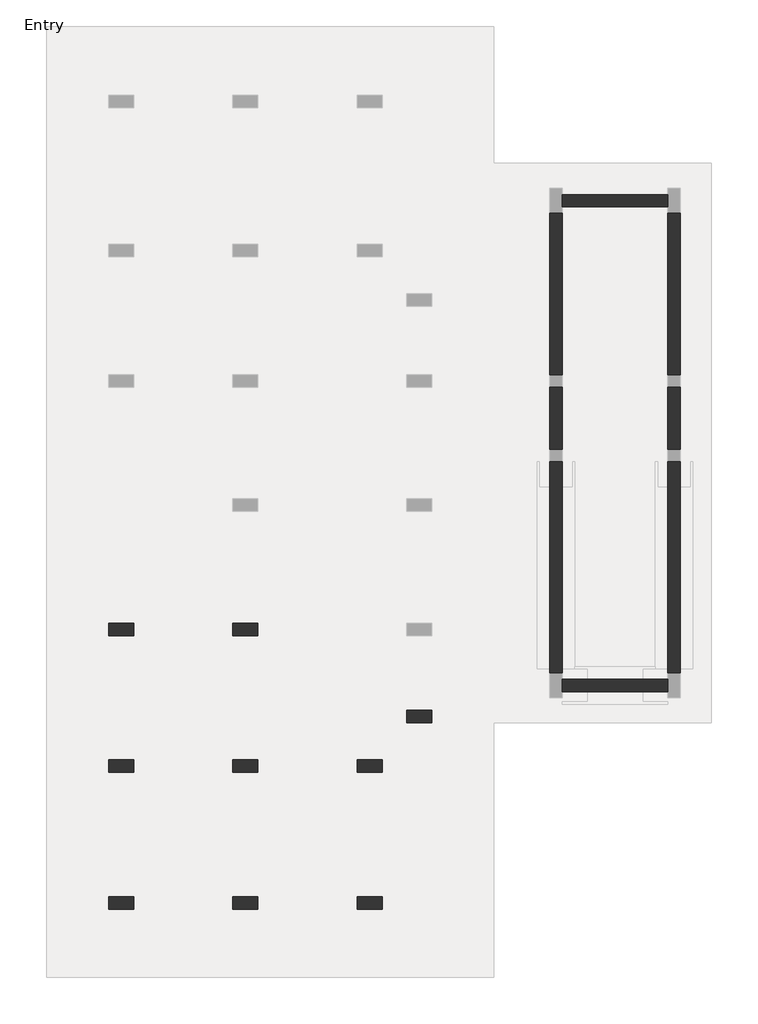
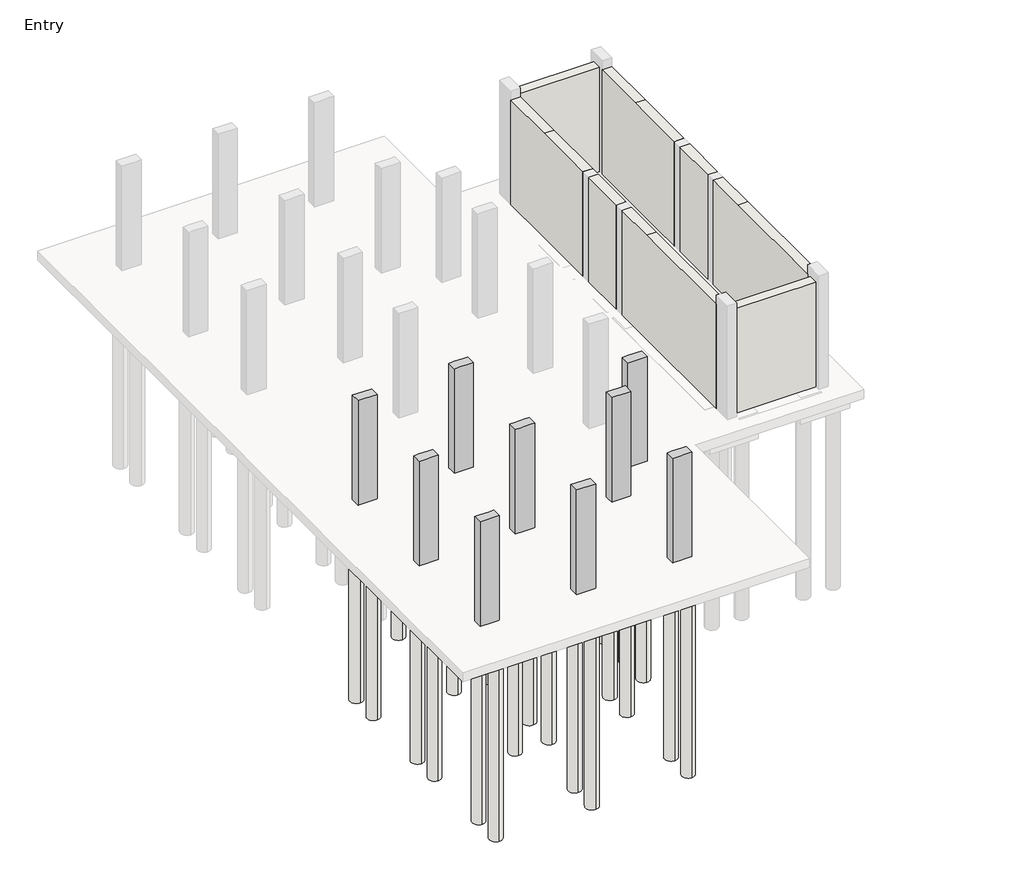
# One storey, part 1 of 3: 34 slabs, 9 columns, 8 walls.
"""IFC4 building model written with IfcOpenShell, lengths in millimetres."""

from ifc_helpers import new_model, si_unit, point, frame, frame_2d, origin, origin_with_axes, place, context, project, spatial, polyline, circle_curve, trimmed, segment, composite_curve, outline, extrude, faceted_brep, element, save

model = new_model("IFC4")

# Units and contexts
model_context = context("Model", 3, world=origin())
ifc_project = project(units=[si_unit("LENGTHUNIT", "METRE", prefix="MILLI")], contexts=[model_context])

# Site, building, storey
site = spatial("IfcSite", under=ifc_project)
building = spatial("IfcBuilding", under=site)
storey = spatial("IfcBuildingStorey", under=building, Name="Entry", Elevation=0.0)

# Columns
placement = place(None, origin())
element("IfcColumn", 1, ObjectType="Concrete-Rectangular-Column : 12 x 24", at=placement, inside=storey, context=model_context, shape_type="Brep", body=[
    faceted_brep([(-15967.1663981, -2679.8512152, 0.0), (-15357.5663981, -2679.8512152, 0.0), (-15357.5663981, -2984.6512152, 0.0), (-15967.1663981, -2984.6512152, 0.0), (-15967.1663981, -2679.8512152, 3505.2), (-15357.5663981, -2679.8512152, 3505.2), (-15357.5663981, -2679.8512152, 2895.6), (-15357.5663981, -2984.6512152, 3505.2), (-15357.5663981, -2984.6512152, 2895.6), (-15509.9663981, -2984.6512152, 3505.2), (-15814.7663981, -2984.6512152, 3505.2), (-15967.1663981, -2984.6512152, 3505.2)], [[[0, 1, 2, 3]], [[4, 5, 6, 1, 0]], [[5, 7, 8, 2, 1, 6]], [[7, 9, 10, 11, 3, 2, 8]], [[11, 4, 0, 3]], [[4, 11, 10, 9, 7, 5]]]),
])
element("IfcColumn", 2, ObjectType="Concrete-Rectangular-Column : 12 x 24", at=placement, inside=storey, context=model_context, shape_type="Brep", body=[
    faceted_brep([(-15967.1663981, -6032.6512152, 0.0), (-15357.5663981, -6032.6512152, 0.0), (-15357.5663981, -6337.4512152, 0.0), (-15967.1663981, -6337.4512152, 0.0), (-15967.1663981, -6032.6512152, 3505.2), (-15814.7663981, -6032.6512152, 3505.2), (-15509.9663981, -6032.6512152, 3505.2), (-15357.5663981, -6032.6512152, 3505.2), (-15357.5663981, -6032.6512152, 2895.6), (-15357.5663981, -6337.4512152, 3505.2), (-15357.5663981, -6337.4512152, 2895.6), (-15509.9663981, -6337.4512152, 3505.2), (-15814.7663981, -6337.4512152, 3505.2), (-15967.1663981, -6337.4512152, 3505.2)], [[[0, 1, 2, 3]], [[4, 5, 6, 7, 8, 1, 0]], [[7, 9, 10, 2, 1, 8]], [[9, 11, 12, 13, 3, 2, 10]], [[13, 4, 0, 3]], [[4, 13, 12, 11, 9, 7, 6, 5]]]),
])
element("IfcColumn", 3, ObjectType="Concrete-Rectangular-Column : 12 x 24", at=placement, inside=storey, context=model_context, shape_type="Brep", body=[
    faceted_brep([(-15967.1663981, -9385.4512152, 0.0), (-15357.5663981, -9385.4512152, 0.0), (-15357.5663981, -9690.2512152, 0.0), (-15967.1663981, -9690.2512152, 0.0), (-15967.1663981, -9385.4512152, 3505.2), (-15814.7663981, -9385.4512152, 3505.2), (-15509.9663981, -9385.4512152, 3505.2), (-15357.5663981, -9385.4512152, 3505.2), (-15357.5663981, -9385.4512152, 2895.6), (-15357.5663981, -9690.2512152, 3505.2), (-15357.5663981, -9690.2512152, 2895.6), (-15967.1663981, -9690.2512152, 3505.2)], [[[0, 1, 2, 3]], [[4, 5, 6, 7, 8, 1, 0]], [[7, 9, 10, 2, 1, 8]], [[9, 11, 3, 2, 10]], [[11, 4, 0, 3]], [[4, 11, 9, 7, 6, 5]]]),
])
element("IfcColumn", 4, ObjectType="Concrete-Rectangular-Column : 12 x 24", at=placement, inside=storey, context=model_context, shape_type="Brep", body=[
    faceted_brep([(-12919.1663981, -9385.4512152, 0.0), (-12309.5663981, -9385.4512152, 0.0), (-12309.5663981, -9690.2512152, 0.0), (-12919.1663981, -9690.2512152, 0.0), (-12919.1663981, -9385.4512152, 3505.2), (-12766.7663981, -9385.4512152, 3505.2), (-12461.9663981, -9385.4512152, 3505.2), (-12309.5663981, -9385.4512152, 3505.2), (-12309.5663981, -9385.4512152, 2895.6), (-12919.1663981, -9385.4512152, 2895.6), (-12309.5663981, -9690.2512152, 3505.2), (-12309.5663981, -9690.2512152, 2895.6), (-12919.1663981, -9690.2512152, 3505.2), (-12919.1663981, -9690.2512152, 2895.6)], [[[0, 1, 2, 3]], [[4, 5, 6, 7, 8, 1, 0, 9]], [[7, 10, 11, 2, 1, 8]], [[10, 12, 13, 3, 2, 11]], [[12, 4, 9, 0, 3, 13]], [[4, 12, 10, 7, 6, 5]]]),
])
element("IfcColumn", 5, ObjectType="Concrete-Rectangular-Column : 12 x 24", at=placement, inside=storey, context=model_context, shape_type="Brep", body=[
    faceted_brep([(-12919.1663981, -6032.6512152, 0.0), (-12309.5663981, -6032.6512152, 0.0), (-12309.5663981, -6337.4512152, 0.0), (-12919.1663981, -6337.4512152, 0.0), (-12919.1663981, -6032.6512152, 3505.2), (-12766.7663981, -6032.6512152, 3505.2), (-12461.9663981, -6032.6512152, 3505.2), (-12309.5663981, -6032.6512152, 3505.2), (-12309.5663981, -6032.6512152, 2895.6), (-12919.1663981, -6032.6512152, 2895.6), (-12309.5663981, -6337.4512152, 3505.2), (-12309.5663981, -6337.4512152, 2895.6), (-12461.9663981, -6337.4512152, 3505.2), (-12766.7663981, -6337.4512152, 3505.2), (-12919.1663981, -6337.4512152, 3505.2), (-12919.1663981, -6337.4512152, 2895.6)], [[[0, 1, 2, 3]], [[4, 5, 6, 7, 8, 1, 0, 9]], [[7, 10, 11, 2, 1, 8]], [[10, 12, 13, 14, 15, 3, 2, 11]], [[14, 4, 9, 0, 3, 15]], [[4, 14, 13, 12, 10, 7, 6, 5]]]),
])
element("IfcColumn", 6, ObjectType="Concrete-Rectangular-Column : 12 x 24", at=placement, inside=storey, context=model_context, shape_type="Brep", body=[
    faceted_brep([(-12919.1663981, -2679.8512152, 0.0), (-12309.5663981, -2679.8512152, 0.0), (-12309.5663981, -2984.6512152, 0.0), (-12919.1663981, -2984.6512152, 0.0), (-12919.1663981, -2679.8512152, 3505.2), (-12766.7663981, -2679.8512152, 3505.2), (-12461.9663981, -2679.8512152, 3505.2), (-12309.5663981, -2679.8512152, 3505.2), (-12309.5663981, -2679.8512152, 2895.6), (-12919.1663981, -2679.8512152, 2895.6), (-12309.5663981, -2984.6512152, 3505.2), (-12309.5663981, -2984.6512152, 2895.6), (-12461.9663981, -2984.6512152, 3505.2), (-12766.7663981, -2984.6512152, 3505.2), (-12919.1663981, -2984.6512152, 3505.2), (-12919.1663981, -2984.6512152, 2895.6)], [[[0, 1, 2, 3]], [[4, 5, 6, 7, 8, 1, 0, 9]], [[7, 10, 11, 2, 1, 8]], [[10, 12, 13, 14, 15, 3, 2, 11]], [[14, 4, 9, 0, 3, 15]], [[4, 14, 13, 12, 10, 7, 6, 5]]]),
])
element("IfcColumn", 7, ObjectType="Concrete-Rectangular-Column : 12 x 24", at=placement, inside=storey, context=model_context, shape_type="Brep", body=[
    faceted_brep([(-8651.9663981, -4813.4512152, 0.0), (-8042.3663981, -4813.4512152, 0.0), (-8042.3663981, -5118.2512152, 0.0), (-8651.9663981, -5118.2512152, 0.0), (-8651.9663981, -4813.4512152, 3505.2), (-8499.5663981, -4813.4512152, 3505.2), (-8194.7663981, -4813.4512152, 3505.2), (-8042.3663981, -4813.4512152, 3505.2), (-8651.9663981, -4813.4512152, 2895.6), (-8042.3663981, -5118.2512152, 3505.2), (-8651.9663981, -5118.2512152, 3505.2), (-8651.9663981, -5118.2512152, 2895.6)], [[[0, 1, 2, 3]], [[4, 5, 6, 7, 1, 0, 8]], [[7, 9, 2, 1]], [[9, 10, 11, 3, 2]], [[10, 4, 8, 0, 3, 11]], [[4, 10, 9, 7, 6, 5]]]),
])
element("IfcColumn", 8, ObjectType="Concrete-Rectangular-Column : 12 x 24", at=placement, inside=storey, context=model_context, shape_type="Brep", body=[
    faceted_brep([(-9261.5663981, -6337.4512152, 0.0), (-9871.1663981, -6337.4512152, 0.0), (-9871.1663981, -6032.6512152, 0.0), (-9261.5663981, -6032.6512152, 0.0), (-9261.5663981, -6337.4512152, 3505.2), (-9413.9663981, -6337.4512152, 3505.2), (-9718.7663981, -6337.4512152, 3505.2), (-9871.1663981, -6337.4512152, 3505.2), (-9871.1663981, -6337.4512152, 2895.6), (-9871.1663981, -6032.6512152, 3505.2), (-9871.1663981, -6032.6512152, 2895.6), (-9718.7663981, -6032.6512152, 3505.2), (-9413.9663981, -6032.6512152, 3505.2), (-9261.5663981, -6032.6512152, 3505.2)], [[[0, 1, 2, 3]], [[4, 5, 6, 7, 8, 1, 0]], [[7, 9, 10, 2, 1, 8]], [[9, 11, 12, 13, 3, 2, 10]], [[13, 4, 0, 3]], [[4, 13, 12, 11, 9, 7, 6, 5]]]),
])
element("IfcColumn", 9, ObjectType="Concrete-Rectangular-Column : 12 x 24", at=placement, inside=storey, context=model_context, shape_type="Brep", body=[
    faceted_brep([(-9261.5663981, -9690.2512152, 0.0), (-9871.1663981, -9690.2512152, 0.0), (-9871.1663981, -9385.4512152, 0.0), (-9261.5663981, -9385.4512152, 0.0), (-9261.5663981, -9690.2512152, 3505.2), (-9871.1663981, -9690.2512152, 3505.2), (-9871.1663981, -9690.2512152, 2895.6), (-9871.1663981, -9385.4512152, 3505.2), (-9871.1663981, -9385.4512152, 2895.6), (-9718.7663981, -9385.4512152, 3505.2), (-9413.9663981, -9385.4512152, 3505.2), (-9261.5663981, -9385.4512152, 3505.2)], [[[0, 1, 2, 3]], [[4, 5, 6, 1, 0]], [[5, 7, 8, 2, 1, 6]], [[7, 9, 10, 11, 3, 2, 8]], [[11, 4, 0, 3]], [[4, 11, 10, 9, 7, 5]]]),
])

# Slabs
element("IfcSlab", 10, ObjectType="Pile Cap-2 Pile : 31\"x61\"x35\"", at=placement, inside=storey, context=model_context, shape_type="SweptSolid", body=[
    extrude(outline(polyline([(-16068.7663981, -2057.5512152), (-15255.9663981, -2057.5512152), (-15255.9663981, -3606.9512152), (-16068.7663981, -3606.9512152), (-16068.7663981, -2057.5512152)])), frame((0.0, 0.0, -889.0), z_axis=(0.0, 0.0, 1.0), x_axis=(1.0, 0.0, 0.0)), (0.0, 0.0, 1.0), 584.2),
])
element("IfcSlab", 11, ObjectType="Pile Cap-2 Pile : 31\"x61\"x35\"", at=placement, inside=storey, context=model_context, shape_type="SweptSolid", body=[
    extrude(outline(polyline([(-16068.7663981, -5410.3512152), (-15255.9663981, -5410.3512152), (-15255.9663981, -6959.7512152), (-16068.7663981, -6959.7512152), (-16068.7663981, -5410.3512152)])), frame((0.0, 0.0, -889.0), z_axis=(0.0, 0.0, 1.0), x_axis=(1.0, 0.0, 0.0)), (0.0, 0.0, 1.0), 584.2),
])
element("IfcSlab", 12, ObjectType="Pile Cap-2 Pile : 31\"x61\"x35\"", at=placement, inside=storey, context=model_context, shape_type="SweptSolid", body=[
    extrude(outline(polyline([(-16068.7663981, -8763.1512152), (-15255.9663981, -8763.1512152), (-15255.9663981, -10312.5512152), (-16068.7663981, -10312.5512152), (-16068.7663981, -8763.1512152)])), frame((0.0, 0.0, -889.0), z_axis=(0.0, 0.0, 1.0), x_axis=(1.0, 0.0, 0.0)), (0.0, 0.0, 1.0), 584.2),
])
element("IfcSlab", 13, ObjectType="Pile Cap-2 Pile : 31\"x61\"x35\"", at=placement, inside=storey, context=model_context, shape_type="SweptSolid", body=[
    extrude(outline(polyline([(-13020.7663981, -8763.1512152), (-12207.9663981, -8763.1512152), (-12207.9663981, -10312.5512152), (-13020.7663981, -10312.5512152), (-13020.7663981, -8763.1512152)])), frame((0.0, 0.0, -889.0), z_axis=(0.0, 0.0, 1.0), x_axis=(1.0, 0.0, 0.0)), (0.0, 0.0, 1.0), 584.2),
])
element("IfcSlab", 14, ObjectType="Pile Cap-2 Pile : 31\"x61\"x35\"", at=placement, inside=storey, context=model_context, shape_type="SweptSolid", body=[
    extrude(outline(polyline([(-9159.9663981, -6959.7512152), (-9972.7663981, -6959.7512152), (-9972.7663981, -5410.3512152), (-9159.9663981, -5410.3512152), (-9159.9663981, -6959.7512152)])), frame((0.0, 0.0, -889.0), z_axis=(0.0, 0.0, 1.0), x_axis=(1.0, 0.0, 0.0)), (0.0, 0.0, 1.0), 584.2),
])
element("IfcSlab", 15, ObjectType="Pile Cap-2 Pile : 31\"x61\"x35\"", at=placement, inside=storey, context=model_context, shape_type="SweptSolid", body=[
    extrude(outline(polyline([(-9159.9663981, -10312.5512152), (-9972.7663981, -10312.5512152), (-9972.7663981, -8763.1512152), (-9159.9663981, -8763.1512152), (-9159.9663981, -10312.5512152)])), frame((0.0, 0.0, -889.0), z_axis=(0.0, 0.0, 1.0), x_axis=(1.0, 0.0, 0.0)), (0.0, 0.0, 1.0), 584.2),
])
element("IfcSlab", 16, ObjectType="Pile Cap-2 Pile : 31\"x61\"x35\"", at=placement, inside=storey, context=model_context, shape_type="SweptSolid", body=[
    extrude(outline(polyline([(-8753.5663981, -4191.1512152), (-7940.7663981, -4191.1512152), (-7940.7663981, -5740.5512152), (-8753.5663981, -5740.5512152), (-8753.5663981, -4191.1512152)])), frame((0.0, 0.0, -889.0), z_axis=(0.0, 0.0, 1.0), x_axis=(1.0, 0.0, 0.0)), (0.0, 0.0, 1.0), 584.2),
])
element("IfcSlab", 17, ObjectType="Pile Cap-4 Pile : 72\"x72\"x35\"", at=placement, inside=storey, context=model_context, shape_type="SweptSolid", body=[
    extrude(outline(polyline([(-13528.7663981, -1917.8512152), (-11699.9663981, -1917.8512152), (-11699.9663981, -3746.6512152), (-13528.7663981, -3746.6512152), (-13528.7663981, -1917.8512152)])), frame((0.0, 0.0, -889.0), z_axis=(0.0, 0.0, 1.0), x_axis=(1.0, 0.0, 0.0)), (0.0, 0.0, 1.0), 584.2),
])
element("IfcSlab", 18, ObjectType="Pile Cap-4 Pile : 72\"x72\"x35\"", at=placement, inside=storey, context=model_context, shape_type="SweptSolid", body=[
    extrude(outline(polyline([(-13528.7663981, -5270.6512152), (-11699.9663981, -5270.6512152), (-11699.9663981, -7099.4512152), (-13528.7663981, -7099.4512152), (-13528.7663981, -5270.6512152)])), frame((0.0, 0.0, -889.0), z_axis=(0.0, 0.0, 1.0), x_axis=(1.0, 0.0, 0.0)), (0.0, 0.0, 1.0), 584.2),
])
element("IfcSlab", 19, ObjectType="Pile-Steel Pipe : 16\" Diameter", at=placement, inside=storey, context=model_context, shape_type="SweptSolid", body=[
    extrude(outline(composite_curve([segment(trimmed(circle_curve(frame_2d((-13147.7663981, -317.6512152)), 203.2), [point((-13147.7663981, -520.8512152))], [point((-13147.7663981, -114.4512152))], False, "CARTESIAN"), True, "CONTINUOUS"), segment(trimmed(circle_curve(frame_2d((-13147.7663981, -317.6512152)), 203.2), [point((-13147.7663981, -114.4512152))], [point((-13147.7663981, -520.8512152))], False, "CARTESIAN"), True, "CONTINUOUS")], self_intersect=False)), frame((0.0, 0.0, -6985.0), z_axis=(0.0, 0.0, 1.0), x_axis=(1.0, 0.0, 0.0)), (0.0, 0.0, 1.0), 6096.0),
])
element("IfcSlab", 20, ObjectType="Pile-Steel Pipe : 16\" Diameter", at=placement, inside=storey, context=model_context, shape_type="SweptSolid", body=[
    extrude(outline(composite_curve([segment(trimmed(circle_curve(frame_2d((-12080.9663981, -317.6512152)), 203.2), [point((-12080.9663981, -520.8512152))], [point((-12080.9663981, -114.4512152))], False, "CARTESIAN"), True, "CONTINUOUS"), segment(trimmed(circle_curve(frame_2d((-12080.9663981, -317.6512152)), 203.2), [point((-12080.9663981, -114.4512152))], [point((-12080.9663981, -520.8512152))], False, "CARTESIAN"), True, "CONTINUOUS")], self_intersect=False)), frame((0.0, 0.0, -6985.0), z_axis=(0.0, 0.0, 1.0), x_axis=(1.0, 0.0, 0.0)), (0.0, 0.0, 1.0), 6096.0),
])
element("IfcSlab", 21, ObjectType="Pile-Steel Pipe : 16\" Diameter", at=placement, inside=storey, context=model_context, shape_type="SweptSolid", body=[
    extrude(outline(composite_curve([segment(trimmed(circle_curve(frame_2d((-13147.7663981, -3365.6512152)), 203.2), [point((-13147.7663981, -3568.8512152))], [point((-13147.7663981, -3162.4512152))], False, "CARTESIAN"), True, "CONTINUOUS"), segment(trimmed(circle_curve(frame_2d((-13147.7663981, -3365.6512152)), 203.2), [point((-13147.7663981, -3162.4512152))], [point((-13147.7663981, -3568.8512152))], False, "CARTESIAN"), True, "CONTINUOUS")], self_intersect=False)), frame((0.0, 0.0, -6985.0), z_axis=(0.0, 0.0, 1.0), x_axis=(1.0, 0.0, 0.0)), (0.0, 0.0, 1.0), 6096.0),
])
element("IfcSlab", 22, ObjectType="Pile-Steel Pipe : 16\" Diameter", at=placement, inside=storey, context=model_context, shape_type="SweptSolid", body=[
    extrude(outline(composite_curve([segment(trimmed(circle_curve(frame_2d((-12080.9663981, -3365.6512152)), 203.2), [point((-12080.9663981, -3568.8512152))], [point((-12080.9663981, -3162.4512152))], False, "CARTESIAN"), True, "CONTINUOUS"), segment(trimmed(circle_curve(frame_2d((-12080.9663981, -3365.6512152)), 203.2), [point((-12080.9663981, -3162.4512152))], [point((-12080.9663981, -3568.8512152))], False, "CARTESIAN"), True, "CONTINUOUS")], self_intersect=False)), frame((0.0, 0.0, -6985.0), z_axis=(0.0, 0.0, 1.0), x_axis=(1.0, 0.0, 0.0)), (0.0, 0.0, 1.0), 6096.0),
])
element("IfcSlab", 23, ObjectType="Pile-Steel Pipe : 16\" Diameter", at=placement, inside=storey, context=model_context, shape_type="SweptSolid", body=[
    extrude(outline(composite_curve([segment(trimmed(circle_curve(frame_2d((-12080.9663981, -2298.8512152)), 203.2), [point((-12080.9663981, -2502.0512152))], [point((-12080.9663981, -2095.6512152))], False, "CARTESIAN"), True, "CONTINUOUS"), segment(trimmed(circle_curve(frame_2d((-12080.9663981, -2298.8512152)), 203.2), [point((-12080.9663981, -2095.6512152))], [point((-12080.9663981, -2502.0512152))], False, "CARTESIAN"), True, "CONTINUOUS")], self_intersect=False)), frame((0.0, 0.0, -6985.0), z_axis=(0.0, 0.0, 1.0), x_axis=(1.0, 0.0, 0.0)), (0.0, 0.0, 1.0), 6096.0),
])
element("IfcSlab", 24, ObjectType="Pile-Steel Pipe : 16\" Diameter", at=placement, inside=storey, context=model_context, shape_type="SweptSolid", body=[
    extrude(outline(composite_curve([segment(trimmed(circle_curve(frame_2d((-13147.7663981, -2298.8512152)), 203.2), [point((-13147.7663981, -2502.0512152))], [point((-13147.7663981, -2095.6512152))], False, "CARTESIAN"), True, "CONTINUOUS"), segment(trimmed(circle_curve(frame_2d((-13147.7663981, -2298.8512152)), 203.2), [point((-13147.7663981, -2095.6512152))], [point((-13147.7663981, -2502.0512152))], False, "CARTESIAN"), True, "CONTINUOUS")], self_intersect=False)), frame((0.0, 0.0, -6985.0), z_axis=(0.0, 0.0, 1.0), x_axis=(1.0, 0.0, 0.0)), (0.0, 0.0, 1.0), 6096.0),
])
element("IfcSlab", 25, ObjectType="Pile-Steel Pipe : 16\" Diameter", at=placement, inside=storey, context=model_context, shape_type="SweptSolid", body=[
    extrude(outline(composite_curve([segment(trimmed(circle_curve(frame_2d((-13147.7663981, -6718.4512152)), 203.2), [point((-13147.7663981, -6921.6512152))], [point((-13147.7663981, -6515.2512152))], False, "CARTESIAN"), True, "CONTINUOUS"), segment(trimmed(circle_curve(frame_2d((-13147.7663981, -6718.4512152)), 203.2), [point((-13147.7663981, -6515.2512152))], [point((-13147.7663981, -6921.6512152))], False, "CARTESIAN"), True, "CONTINUOUS")], self_intersect=False)), frame((0.0, 0.0, -6985.0), z_axis=(0.0, 0.0, 1.0), x_axis=(1.0, 0.0, 0.0)), (0.0, 0.0, 1.0), 6096.0),
])
element("IfcSlab", 26, ObjectType="Pile-Steel Pipe : 16\" Diameter", at=placement, inside=storey, context=model_context, shape_type="SweptSolid", body=[
    extrude(outline(composite_curve([segment(trimmed(circle_curve(frame_2d((-12080.9663981, -6718.4512152)), 203.2), [point((-12080.9663981, -6921.6512152))], [point((-12080.9663981, -6515.2512152))], False, "CARTESIAN"), True, "CONTINUOUS"), segment(trimmed(circle_curve(frame_2d((-12080.9663981, -6718.4512152)), 203.2), [point((-12080.9663981, -6515.2512152))], [point((-12080.9663981, -6921.6512152))], False, "CARTESIAN"), True, "CONTINUOUS")], self_intersect=False)), frame((0.0, 0.0, -6985.0), z_axis=(0.0, 0.0, 1.0), x_axis=(1.0, 0.0, 0.0)), (0.0, 0.0, 1.0), 6096.0),
])
element("IfcSlab", 27, ObjectType="Pile-Steel Pipe : 16\" Diameter", at=placement, inside=storey, context=model_context, shape_type="SweptSolid", body=[
    extrude(outline(composite_curve([segment(trimmed(circle_curve(frame_2d((-12080.9663981, -5651.6512152)), 203.2), [point((-12080.9663981, -5854.8512152))], [point((-12080.9663981, -5448.4512152))], False, "CARTESIAN"), True, "CONTINUOUS"), segment(trimmed(circle_curve(frame_2d((-12080.9663981, -5651.6512152)), 203.2), [point((-12080.9663981, -5448.4512152))], [point((-12080.9663981, -5854.8512152))], False, "CARTESIAN"), True, "CONTINUOUS")], self_intersect=False)), frame((0.0, 0.0, -6985.0), z_axis=(0.0, 0.0, 1.0), x_axis=(1.0, 0.0, 0.0)), (0.0, 0.0, 1.0), 6096.0),
])
element("IfcSlab", 28, ObjectType="Pile-Steel Pipe : 16\" Diameter", at=placement, inside=storey, context=model_context, shape_type="SweptSolid", body=[
    extrude(outline(composite_curve([segment(trimmed(circle_curve(frame_2d((-13147.7663981, -5651.6512152)), 203.2), [point((-13147.7663981, -5854.8512152))], [point((-13147.7663981, -5448.4512152))], False, "CARTESIAN"), True, "CONTINUOUS"), segment(trimmed(circle_curve(frame_2d((-13147.7663981, -5651.6512152)), 203.2), [point((-13147.7663981, -5448.4512152))], [point((-13147.7663981, -5854.8512152))], False, "CARTESIAN"), True, "CONTINUOUS")], self_intersect=False)), frame((0.0, 0.0, -6985.0), z_axis=(0.0, 0.0, 1.0), x_axis=(1.0, 0.0, 0.0)), (0.0, 0.0, 1.0), 6096.0),
])
element("IfcSlab", 29, ObjectType="Pile-Steel Pipe : 16\" Diameter", at=placement, inside=storey, context=model_context, shape_type="SweptSolid", body=[
    extrude(outline(composite_curve([segment(trimmed(circle_curve(frame_2d((-15662.3663981, -3302.1512152)), 203.2), [point((-15662.3663981, -3505.3512152))], [point((-15662.3663981, -3098.9512152))], False, "CARTESIAN"), True, "CONTINUOUS"), segment(trimmed(circle_curve(frame_2d((-15662.3663981, -3302.1512152)), 203.2), [point((-15662.3663981, -3098.9512152))], [point((-15662.3663981, -3505.3512152))], False, "CARTESIAN"), True, "CONTINUOUS")], self_intersect=False)), frame((0.0, 0.0, -6985.0), z_axis=(0.0, 0.0, 1.0), x_axis=(1.0, 0.0, 0.0)), (0.0, 0.0, 1.0), 6096.0),
])
element("IfcSlab", 30, ObjectType="Pile-Steel Pipe : 16\" Diameter", at=placement, inside=storey, context=model_context, shape_type="SweptSolid", body=[
    extrude(outline(composite_curve([segment(trimmed(circle_curve(frame_2d((-15662.3663981, -2362.3512152)), 203.2), [point((-15662.3663981, -2565.5512152))], [point((-15662.3663981, -2159.1512152))], False, "CARTESIAN"), True, "CONTINUOUS"), segment(trimmed(circle_curve(frame_2d((-15662.3663981, -2362.3512152)), 203.2), [point((-15662.3663981, -2159.1512152))], [point((-15662.3663981, -2565.5512152))], False, "CARTESIAN"), True, "CONTINUOUS")], self_intersect=False)), frame((0.0, 0.0, -6985.0), z_axis=(0.0, 0.0, 1.0), x_axis=(1.0, 0.0, 0.0)), (0.0, 0.0, 1.0), 6096.0),
])
element("IfcSlab", 31, ObjectType="Pile-Steel Pipe : 16\" Diameter", at=placement, inside=storey, context=model_context, shape_type="SweptSolid", body=[
    extrude(outline(composite_curve([segment(trimmed(circle_curve(frame_2d((-15662.3663981, -6654.9512152)), 203.2), [point((-15662.3663981, -6858.1512152))], [point((-15662.3663981, -6451.7512152))], False, "CARTESIAN"), True, "CONTINUOUS"), segment(trimmed(circle_curve(frame_2d((-15662.3663981, -6654.9512152)), 203.2), [point((-15662.3663981, -6451.7512152))], [point((-15662.3663981, -6858.1512152))], False, "CARTESIAN"), True, "CONTINUOUS")], self_intersect=False)), frame((0.0, 0.0, -6985.0), z_axis=(0.0, 0.0, 1.0), x_axis=(1.0, 0.0, 0.0)), (0.0, 0.0, 1.0), 6096.0),
])
element("IfcSlab", 32, ObjectType="Pile-Steel Pipe : 16\" Diameter", at=placement, inside=storey, context=model_context, shape_type="SweptSolid", body=[
    extrude(outline(composite_curve([segment(trimmed(circle_curve(frame_2d((-15662.3663981, -5715.1512152)), 203.2), [point((-15662.3663981, -5918.3512152))], [point((-15662.3663981, -5511.9512152))], False, "CARTESIAN"), True, "CONTINUOUS"), segment(trimmed(circle_curve(frame_2d((-15662.3663981, -5715.1512152)), 203.2), [point((-15662.3663981, -5511.9512152))], [point((-15662.3663981, -5918.3512152))], False, "CARTESIAN"), True, "CONTINUOUS")], self_intersect=False)), frame((0.0, 0.0, -6985.0), z_axis=(0.0, 0.0, 1.0), x_axis=(1.0, 0.0, 0.0)), (0.0, 0.0, 1.0), 6096.0),
])
element("IfcSlab", 33, ObjectType="Pile-Steel Pipe : 16\" Diameter", at=placement, inside=storey, context=model_context, shape_type="SweptSolid", body=[
    extrude(outline(composite_curve([segment(trimmed(circle_curve(frame_2d((-15662.3663981, -10007.7512152)), 203.2), [point((-15662.3663981, -10210.9512152))], [point((-15662.3663981, -9804.5512152))], False, "CARTESIAN"), True, "CONTINUOUS"), segment(trimmed(circle_curve(frame_2d((-15662.3663981, -10007.7512152)), 203.2), [point((-15662.3663981, -9804.5512152))], [point((-15662.3663981, -10210.9512152))], False, "CARTESIAN"), True, "CONTINUOUS")], self_intersect=False)), frame((0.0, 0.0, -6985.0), z_axis=(0.0, 0.0, 1.0), x_axis=(1.0, 0.0, 0.0)), (0.0, 0.0, 1.0), 6096.0),
])
element("IfcSlab", 34, ObjectType="Pile-Steel Pipe : 16\" Diameter", at=placement, inside=storey, context=model_context, shape_type="SweptSolid", body=[
    extrude(outline(composite_curve([segment(trimmed(circle_curve(frame_2d((-15662.3663981, -9067.9512152)), 203.2), [point((-15662.3663981, -9271.1512152))], [point((-15662.3663981, -8864.7512152))], False, "CARTESIAN"), True, "CONTINUOUS"), segment(trimmed(circle_curve(frame_2d((-15662.3663981, -9067.9512152)), 203.2), [point((-15662.3663981, -8864.7512152))], [point((-15662.3663981, -9271.1512152))], False, "CARTESIAN"), True, "CONTINUOUS")], self_intersect=False)), frame((0.0, 0.0, -6985.0), z_axis=(0.0, 0.0, 1.0), x_axis=(1.0, 0.0, 0.0)), (0.0, 0.0, 1.0), 6096.0),
])
element("IfcSlab", 35, ObjectType="Pile-Steel Pipe : 16\" Diameter", at=placement, inside=storey, context=model_context, shape_type="SweptSolid", body=[
    extrude(outline(composite_curve([segment(trimmed(circle_curve(frame_2d((-12614.3663981, -10007.7512152)), 203.2), [point((-12614.3663981, -10210.9512152))], [point((-12614.3663981, -9804.5512152))], False, "CARTESIAN"), True, "CONTINUOUS"), segment(trimmed(circle_curve(frame_2d((-12614.3663981, -10007.7512152)), 203.2), [point((-12614.3663981, -9804.5512152))], [point((-12614.3663981, -10210.9512152))], False, "CARTESIAN"), True, "CONTINUOUS")], self_intersect=False)), frame((0.0, 0.0, -6985.0), z_axis=(0.0, 0.0, 1.0), x_axis=(1.0, 0.0, 0.0)), (0.0, 0.0, 1.0), 6096.0),
])
element("IfcSlab", 36, ObjectType="Pile-Steel Pipe : 16\" Diameter", at=placement, inside=storey, context=model_context, shape_type="SweptSolid", body=[
    extrude(outline(composite_curve([segment(trimmed(circle_curve(frame_2d((-12614.3663981, -9067.9512152)), 203.2), [point((-12614.3663981, -9271.1512152))], [point((-12614.3663981, -8864.7512152))], False, "CARTESIAN"), True, "CONTINUOUS"), segment(trimmed(circle_curve(frame_2d((-12614.3663981, -9067.9512152)), 203.2), [point((-12614.3663981, -8864.7512152))], [point((-12614.3663981, -9271.1512152))], False, "CARTESIAN"), True, "CONTINUOUS")], self_intersect=False)), frame((0.0, 0.0, -6985.0), z_axis=(0.0, 0.0, 1.0), x_axis=(1.0, 0.0, 0.0)), (0.0, 0.0, 1.0), 6096.0),
])
element("IfcSlab", 37, ObjectType="Pile-Steel Pipe : 16\" Diameter", at=placement, inside=storey, context=model_context, shape_type="SweptSolid", body=[
    extrude(outline(composite_curve([segment(trimmed(circle_curve(frame_2d((-9566.3663981, -5715.1512152)), 203.2), [point((-9566.3663981, -5511.9512152))], [point((-9566.3663981, -5918.3512152))], False, "CARTESIAN"), True, "CONTINUOUS"), segment(trimmed(circle_curve(frame_2d((-9566.3663981, -5715.1512152)), 203.2), [point((-9566.3663981, -5918.3512152))], [point((-9566.3663981, -5511.9512152))], False, "CARTESIAN"), True, "CONTINUOUS")], self_intersect=False)), frame((0.0, 0.0, -6985.0), z_axis=(0.0, 0.0, 1.0), x_axis=(1.0, 0.0, 0.0)), (0.0, 0.0, 1.0), 6096.0),
])
element("IfcSlab", 38, ObjectType="Pile-Steel Pipe : 16\" Diameter", at=placement, inside=storey, context=model_context, shape_type="SweptSolid", body=[
    extrude(outline(composite_curve([segment(trimmed(circle_curve(frame_2d((-9566.3663981, -6654.9512152)), 203.2), [point((-9566.3663981, -6451.7512152))], [point((-9566.3663981, -6858.1512152))], False, "CARTESIAN"), True, "CONTINUOUS"), segment(trimmed(circle_curve(frame_2d((-9566.3663981, -6654.9512152)), 203.2), [point((-9566.3663981, -6858.1512152))], [point((-9566.3663981, -6451.7512152))], False, "CARTESIAN"), True, "CONTINUOUS")], self_intersect=False)), frame((0.0, 0.0, -6985.0), z_axis=(0.0, 0.0, 1.0), x_axis=(1.0, 0.0, 0.0)), (0.0, 0.0, 1.0), 6096.0),
])
element("IfcSlab", 39, ObjectType="Pile-Steel Pipe : 16\" Diameter", at=placement, inside=storey, context=model_context, shape_type="SweptSolid", body=[
    extrude(outline(composite_curve([segment(trimmed(circle_curve(frame_2d((-9566.3663981, -9067.9512152)), 203.2), [point((-9566.3663981, -8864.7512152))], [point((-9566.3663981, -9271.1512152))], False, "CARTESIAN"), True, "CONTINUOUS"), segment(trimmed(circle_curve(frame_2d((-9566.3663981, -9067.9512152)), 203.2), [point((-9566.3663981, -9271.1512152))], [point((-9566.3663981, -8864.7512152))], False, "CARTESIAN"), True, "CONTINUOUS")], self_intersect=False)), frame((0.0, 0.0, -6985.0), z_axis=(0.0, 0.0, 1.0), x_axis=(1.0, 0.0, 0.0)), (0.0, 0.0, 1.0), 6096.0),
])
element("IfcSlab", 40, ObjectType="Pile-Steel Pipe : 16\" Diameter", at=placement, inside=storey, context=model_context, shape_type="SweptSolid", body=[
    extrude(outline(composite_curve([segment(trimmed(circle_curve(frame_2d((-9566.3663981, -10007.7512152)), 203.2), [point((-9566.3663981, -9804.5512152))], [point((-9566.3663981, -10210.9512152))], False, "CARTESIAN"), True, "CONTINUOUS"), segment(trimmed(circle_curve(frame_2d((-9566.3663981, -10007.7512152)), 203.2), [point((-9566.3663981, -10210.9512152))], [point((-9566.3663981, -9804.5512152))], False, "CARTESIAN"), True, "CONTINUOUS")], self_intersect=False)), frame((0.0, 0.0, -6985.0), z_axis=(0.0, 0.0, 1.0), x_axis=(1.0, 0.0, 0.0)), (0.0, 0.0, 1.0), 6096.0),
])
element("IfcSlab", 41, ObjectType="Pile-Steel Pipe : 16\" Diameter", at=placement, inside=storey, context=model_context, shape_type="SweptSolid", body=[
    extrude(outline(composite_curve([segment(trimmed(circle_curve(frame_2d((-8347.1663981, -3302.1512152)), 203.2), [point((-8347.1663981, -3505.3512152))], [point((-8347.1663981, -3098.9512152))], False, "CARTESIAN"), True, "CONTINUOUS"), segment(trimmed(circle_curve(frame_2d((-8347.1663981, -3302.1512152)), 203.2), [point((-8347.1663981, -3098.9512152))], [point((-8347.1663981, -3505.3512152))], False, "CARTESIAN"), True, "CONTINUOUS")], self_intersect=False)), frame((0.0, 0.0, -6985.0), z_axis=(0.0, 0.0, 1.0), x_axis=(1.0, 0.0, 0.0)), (0.0, 0.0, 1.0), 6096.0),
])
element("IfcSlab", 42, ObjectType="Pile-Steel Pipe : 16\" Diameter", at=placement, inside=storey, context=model_context, shape_type="SweptSolid", body=[
    extrude(outline(composite_curve([segment(trimmed(circle_curve(frame_2d((-8347.1663981, -5435.7512152)), 203.2), [point((-8347.1663981, -5638.9512152))], [point((-8347.1663981, -5232.5512152))], False, "CARTESIAN"), True, "CONTINUOUS"), segment(trimmed(circle_curve(frame_2d((-8347.1663981, -5435.7512152)), 203.2), [point((-8347.1663981, -5232.5512152))], [point((-8347.1663981, -5638.9512152))], False, "CARTESIAN"), True, "CONTINUOUS")], self_intersect=False)), frame((0.0, 0.0, -6985.0), z_axis=(0.0, 0.0, 1.0), x_axis=(1.0, 0.0, 0.0)), (0.0, 0.0, 1.0), 6096.0),
])
element("IfcSlab", 43, ObjectType="Pile-Steel Pipe : 16\" Diameter", at=placement, inside=storey, context=model_context, shape_type="SweptSolid", body=[
    extrude(outline(composite_curve([segment(trimmed(circle_curve(frame_2d((-8347.1663981, -4495.9512152)), 203.2), [point((-8347.1663981, -4699.1512152))], [point((-8347.1663981, -4292.7512152))], False, "CARTESIAN"), True, "CONTINUOUS"), segment(trimmed(circle_curve(frame_2d((-8347.1663981, -4495.9512152)), 203.2), [point((-8347.1663981, -4292.7512152))], [point((-8347.1663981, -4699.1512152))], False, "CARTESIAN"), True, "CONTINUOUS")], self_intersect=False)), frame((0.0, 0.0, -6985.0), z_axis=(0.0, 0.0, 1.0), x_axis=(1.0, 0.0, 0.0)), (0.0, 0.0, 1.0), 6096.0),
])

# Walls
element("IfcWall", 44, ObjectType="Core-Shaft - 12\" Concrete", at=placement, inside=storey, context=model_context, shape_type="SweptSolid", body=[
    extrude(outline(polyline([(-2251.1663981, 7530.9487848), (-4841.9663981, 7530.9487848), (-4841.9663981, 7835.7487848), (-2251.1663981, 7835.7487848), (-2251.1663981, 7530.9487848)])), origin_with_axes(), (0.0, 0.0, 1.0), 3505.2),
])
element("IfcWall", 45, ObjectType="Core-Shaft - 12\" Concrete", at=placement, inside=storey, context=model_context, shape_type="SweptSolid", body=[
    extrude(outline(polyline([(7378.5487848, 0.0), (3416.1487848, 0.0), (3416.1487848, 3505.2), (5549.7487848, 3505.2), (7378.5487848, 3505.2), (7378.5487848, 0.0)])), frame((-2251.1663981, 0.0, 0.0), z_axis=(1.0, 0.0, 0.0), x_axis=(0.0, 1.0, 0.0)), (0.0, 0.0, 1.0), 304.8),
])
element("IfcWall", 46, ObjectType="Core-Shaft - 12\" Concrete", at=placement, inside=storey, context=model_context, shape_type="SweptSolid", body=[
    extrude(outline(polyline([(-2251.1663981, 1587.3487848), (-2251.1663981, 3111.3487848), (-1946.3663981, 3111.3487848), (-1946.3663981, 1587.3487848), (-2251.1663981, 1587.3487848)])), origin_with_axes(), (0.0, 0.0, 1.0), 3505.2),
])
element("IfcWall", 47, ObjectType="Core-Shaft - 12\" Concrete", at=placement, inside=storey, context=model_context, shape_type="SweptSolid", body=[
    extrude(outline(polyline([(1282.5487848, 0.0), (-3899.0512152, 0.0), (-3899.0512152, 3505.2), (-89.0512152, 3505.2), (1282.5487848, 3505.2), (1282.5487848, 0.0)])), frame((-2251.1663981, 0.0, 0.0), z_axis=(1.0, 0.0, 0.0), x_axis=(0.0, 1.0, 0.0)), (0.0, 0.0, 1.0), 304.8),
])
element("IfcWall", 48, ObjectType="Core-Shaft - 12\" Concrete", at=placement, inside=storey, context=model_context, shape_type="SweptSolid", body=[
    extrude(outline(polyline([(7378.5487848, 0.0), (3416.1487848, 0.0), (3416.1487848, 3505.2), (5549.7487848, 3505.2), (7378.5487848, 3505.2), (7378.5487848, 0.0)])), frame((-5146.7663981, 0.0, 0.0), z_axis=(1.0, 0.0, 0.0), x_axis=(0.0, 1.0, 0.0)), (0.0, 0.0, 1.0), 304.8),
])
element("IfcWall", 49, ObjectType="Core-Shaft - 12\" Concrete", at=placement, inside=storey, context=model_context, shape_type="SweptSolid", body=[
    extrude(outline(polyline([(-5146.7663981, 1587.3487848), (-5146.7663981, 3111.3487848), (-4841.9663981, 3111.3487848), (-4841.9663981, 1587.3487848), (-5146.7663981, 1587.3487848)])), origin_with_axes(), (0.0, 0.0, 1.0), 3505.2),
])
element("IfcWall", 50, ObjectType="Core-Shaft - 12\" Concrete", at=placement, inside=storey, context=model_context, shape_type="SweptSolid", body=[
    extrude(outline(polyline([(1282.5487848, 0.0), (-3899.0512152, 0.0), (-3899.0512152, 3505.2), (-89.0512152, 3505.2), (1282.5487848, 3505.2), (1282.5487848, 0.0)])), frame((-5146.7663981, 0.0, 0.0), z_axis=(1.0, 0.0, 0.0), x_axis=(0.0, 1.0, 0.0)), (0.0, 0.0, 1.0), 304.8),
])
element("IfcWall", 51, ObjectType="Core-Shaft - 12\" Concrete", at=placement, inside=storey, context=model_context, shape_type="SweptSolid", body=[
    extrude(outline(polyline([(-2251.1663981, -4356.2512152), (-4841.9663981, -4356.2512152), (-4841.9663981, -4051.4512152), (-2251.1663981, -4051.4512152), (-2251.1663981, -4356.2512152)])), origin_with_axes(), (0.0, 0.0, 1.0), 3505.2),
])

save(model, "model.ifc")
